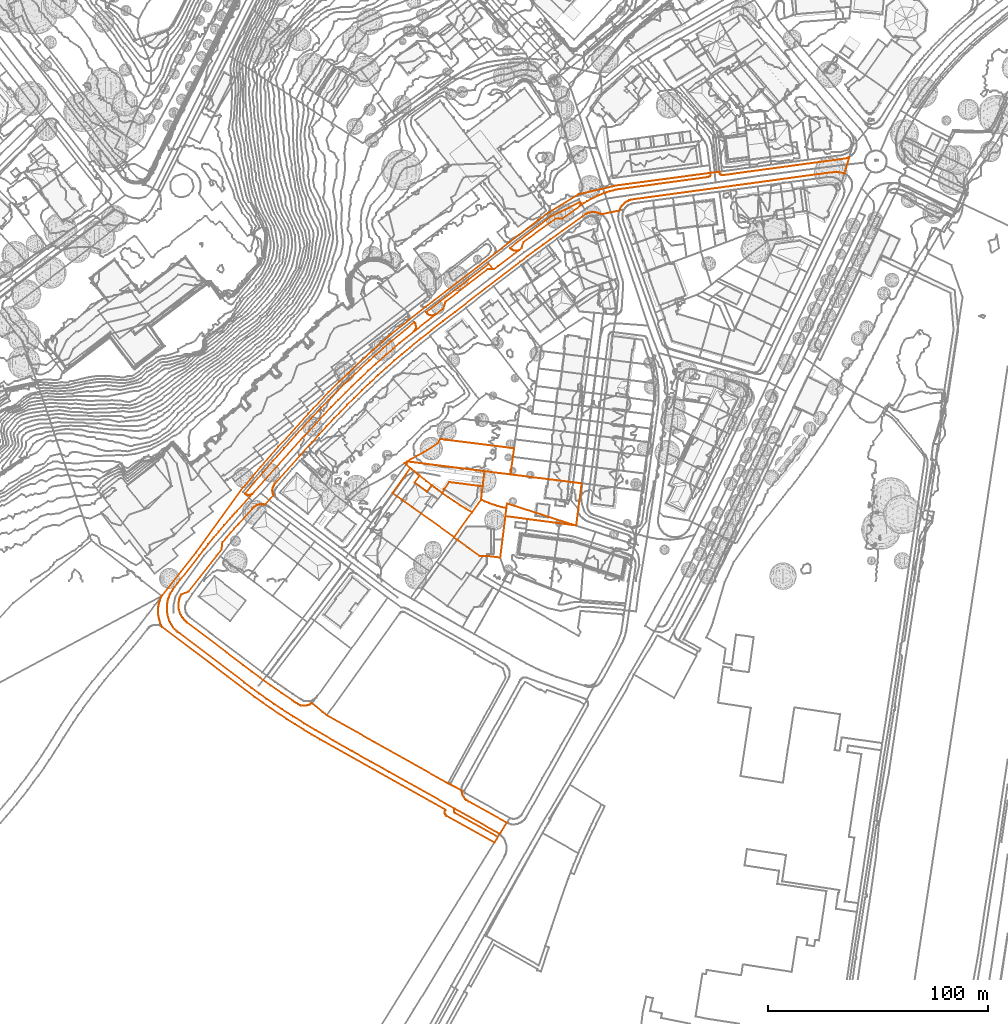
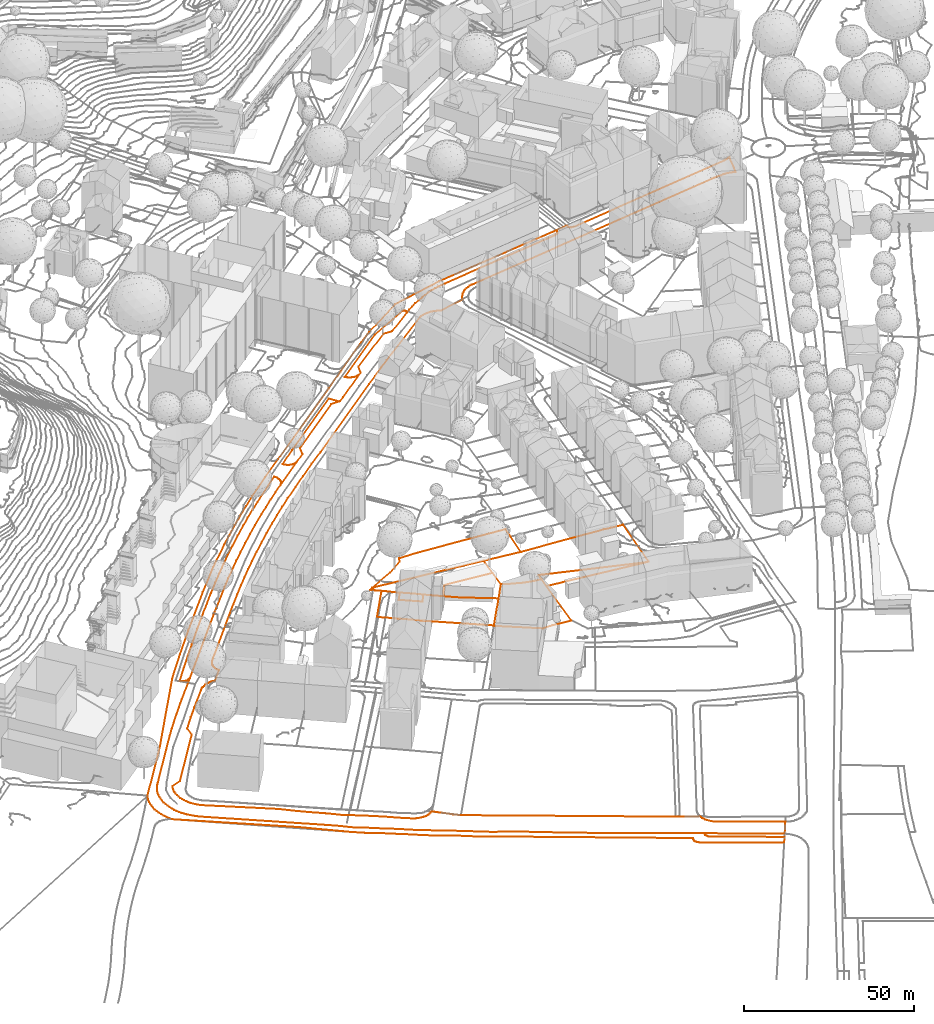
# Not in any storey, part 125 of 477: 6 geographic elements, 3 civil elements.
"""IFC4 model written with IfcOpenShell, lengths in metres."""

from ifc_helpers import new_model, entity, si_unit, frame, origin_with_axes, place, context, subcontext, project, spatial, element, save


model = new_model("IFC4")

# Units and contexts
model_context = context("Model", 3, precision=1e-05, world=origin_with_axes())
body_context = subcontext(model_context, "Body", "Model", "MODEL_VIEW")
ifc_project = project(units=[si_unit("AREAUNIT", "SQUARE_METRE"), si_unit("LENGTHUNIT", "METRE")], contexts=[model_context])

# Sites
site_1_placement = place(None, origin_with_axes())
site_1 = spatial("IfcSite", under=ifc_project, at=site_1_placement, Name="Topoexport Site")
site_2_placement = place(site_1_placement, origin_with_axes())
site_2 = spatial("IfcSite", under=site_1, at=site_2_placement, Name="TPX_ROADS_OUTLINES")

# Civil elements
civil_element_1_placement = place(site_2_placement, frame((258.6207320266, -15.0252839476, 503.8566566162), z_axis=(0.0, 0.0, 1.0), x_axis=(1.0, 0.0, 0.0)))
element("IfcCivilElement", 1, at=civil_element_1_placement, inside=site_2, Name="Roads Outline 103", ObjectType="ROAD", context=body_context, shape_type="GeometricCurveSet", body=[
    entity("IfcGeometricCurveSet", [entity("IfcIndexedPolyCurve", entity("IfcCartesianPointList3D", [[1.611, 7.0649999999, 0.0298461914], [17.1669999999, 26.7960000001, -0.1664721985], [38.4780000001, 56.2720000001, -0.3232977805], [46.469, 65.6499999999, -0.3978756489], [54.6269999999, 74.926, -0.5072653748], [68.2480000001, 89.9620000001, -0.6473626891], [77.3870000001, 99.74, -0.7626127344], [82.2609999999, 104.4909999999, -0.8225917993], [86.0449999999, 108.186, -0.8359621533], [89.8790000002, 111.828, -0.9376377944], [93.7650000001, 115.4170000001, -0.9897374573], [97.7000000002, 118.95, -1.0457364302], [101.6809999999, 122.426, -1.0917887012], [105.71, 125.8470000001, -1.1440215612], [109.787, 129.2120000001, -1.2268797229], [113.909, 132.52, -1.1977058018], [121.807, 138.6799999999, -1.3148771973], [152.7910000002, 162.585, -1.2873144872], [160.0279999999, 168.1699999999, -1.1047125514], [172.628, 177.8910000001, -0.9646272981], [177.2290000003, 181.1840000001, -0.9536199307], [191.0330000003, 189.6470000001, -0.8587447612], [208.1800000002, 193.6170000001, -1.0532250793], [224.858, 195.861, -1.1563147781], [250.23, 199.277, -1.3678007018], [251.085, 199.392, -1.3553995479], [251.1230000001, 199.1200000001, -1.3535357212], [251.1189999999, 198.8460000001, -1.3535559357], [251.0729999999, 198.575, -1.3551996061], [250.9590000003, 198.2520000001, -1.3566142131], [250.7850000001, 197.956, -1.3559932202], [250.5580000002, 197.699, -1.3516307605], [250.2710000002, 197.591, -1.3486239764], [249.977, 197.503, -1.3475760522], [249.7080000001, 197.4399999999, -1.3480654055], [249.4350000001, 197.3940000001, -1.3512664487], [209.1910000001, 191.9380000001, -1.1516545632], [207.9020000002, 191.679, -1.1146645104], [206.6210000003, 191.379, -1.0530327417], [205.3510000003, 191.04, -1.0110439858], [203.8969999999, 190.5970000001, -0.9752242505], [202.4610000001, 190.102, -0.9531931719], [201.0440000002, 189.5549999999, -1.0156338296], [199.6469999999, 188.956, -1.0330962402], [198.0320000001, 188.1980000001, -1.074926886], [196.4500000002, 187.3740000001, -1.055605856], [194.9040000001, 186.4839999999, -1.0990647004], [193.3960000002, 185.53, -1.159563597], [191.9300000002, 184.514, -1.1621339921], [192.074, 184.6780000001, -1.1609508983], [192.165, 184.8770000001, -1.1516755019], [192.1970000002, 185.0930000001, -1.1421356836], [192.1660000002, 185.3090000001, -1.1314248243], [192.0759999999, 185.5079999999, -1.117863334], [191.9300000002, 185.676, -1.100429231], [191.7420000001, 185.794, -1.0848717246], [191.5279999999, 185.8540000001, -1.0730279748], [191.3059999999, 185.8489999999, -1.0681995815], [191.094, 185.781, -1.0644594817], [178.3429999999, 179.4920000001, -1.0675894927], [159.8280000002, 165.291, -1.2504426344], [160.1669999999, 164.98, -1.2712112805], [160.5380000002, 164.71, -1.2896322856], [160.9380000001, 164.483, -1.3091541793], [161.361, 164.304, -1.3317790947], [161.8020000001, 164.173, -1.3564187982], [162.358, 164.081, -1.381497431], [162.9220000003, 164.068, -1.3990799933], [163.4820000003, 164.1329999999, -1.4092275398], [164.0270000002, 164.2760000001, -1.4320736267], [154.5010000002, 157.0209999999, -1.5772423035], [152.727, 155.682, -1.5841325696], [152.3450000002, 155.6640000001, -1.5773495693], [150.273, 158.118, -1.3086188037], [127.8689999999, 140.852, -1.4144565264], [121.8670000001, 136.0260000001, -1.435041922], [122.1580000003, 135.6400000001, -1.4512081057], [122.5060000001, 135.304, -1.4814651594], [122.9020000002, 135.0279999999, -1.4995433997], [123.338, 134.818, -1.5113944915], [123.801, 134.6799999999, -1.5290622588], [124.2290000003, 134.6200000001, -1.5432239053], [124.6600000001, 134.6200000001, -1.5611359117], [125.088, 134.682, -1.5998295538], [125.5019999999, 134.8030000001, -1.6326389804], [125.895, 134.9820000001, -1.626676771], [126.2590000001, 135.2150000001, -1.6283719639], [116.034, 127.1529999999, -1.4637402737], [116.1540000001, 127.25, -1.4679252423], [116.4960000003, 127.5930000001, -1.4860116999], [116.7779999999, 127.9880000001, -1.4775026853], [116.9920000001, 128.422, -1.4673896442], [117.1340000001, 128.8859999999, -1.4596747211], [117.199, 129.3659999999, -1.4431881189], [117.1869999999, 129.844, -1.4242604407], [117.1000000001, 130.314, -1.4067578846], [116.9390000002, 130.764, -1.3892388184], [116.7080000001, 131.183, -1.3700134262], [116.4130000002, 131.5600000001, -1.3480214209], [105.5929999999, 122.6100000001, -1.2604826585], [102.3080000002, 119.78, -1.1140165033], [99.0530000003, 116.9170000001, -1.0922674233], [95.8280000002, 114.0190000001, -1.0838658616], [91.9250000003, 110.4280000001, -1.0656046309], [88.068, 106.787, -0.9873016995], [84.2579999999, 103.0970000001, -0.9246332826], [80.8250000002, 99.655, -0.9072780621], [77.4240000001, 96.182, -0.8715245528], [74.0559999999, 92.6769999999, -0.8256320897], [70.25, 88.6370000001, -0.7667067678], [66.4890000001, 84.5549999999, -0.7568500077], [62.7719999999, 80.433, -0.6692784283], [57.358, 74.3970000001, -0.5822079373], [51.9939999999, 68.318, -0.5523515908], [47.7860000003, 63.477, -0.4973750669], [43.6090000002, 58.6089999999, -0.4328481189], [39.4640000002, 53.713, -0.3825559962], [39.7490000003, 53.469, -0.4004723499], [40.0670000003, 53.27, -0.4130406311], [40.412, 53.1229999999, -0.4200321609], [40.7760000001, 53.03, -0.4312874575], [41.1490000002, 52.993, -0.4487613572], [41.5380000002, 53.017, -0.4685823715], [41.9190000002, 53.102, -0.4797296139], [42.2820000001, 53.247, -0.4904160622], [42.6159999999, 53.4469999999, -0.5006207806], [42.915, 53.6980000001, -0.5112209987], [35.193, 45.128, -0.4059544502], [33.9080000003, 43.6940000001, -0.3978402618], [32.6290000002, 42.2560000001, -0.3842710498], [30.0780000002, 39.375, -0.3584795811], [27.5660000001, 36.459, -0.3437054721], [25.1540000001, 33.5789999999, -0.3210536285], [22.7820000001, 30.666, -0.2879650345], [20.736, 28.112, -0.2667587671], [18.7140000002, 25.54, -0.2429346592], [7.426, 11.095, 0.0563121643], [6.8110000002, 10.294, 0.0775391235], [6.2510000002, 9.453, 0.0681148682], [5.75, 8.5760000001, 0.0383312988], [5.3089999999, 7.6670000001, 0.0301802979], [4.9309999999, 6.7309999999, 0.0352444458], [4.6170000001, 5.7709999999, 0.0394511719], [4.3650000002, 4.7749999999, 0.0422764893], [4.1830000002, 3.764, 0.044192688], [4.071, 2.743, 0.0453718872], [4.0290000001, 1.716, 0.0458140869], [4.0580000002, 0.6899999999, 0.0455087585], [4.1580000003, -0.3329999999, 0.0444559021], [4.3280000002, -1.3459999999, 0.0426660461], [4.568, -2.345, 0.0401076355], [4.804, -3.1780000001, 0.0369458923], [5.0950000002, -3.993, 0.0330473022], [5.4410000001, -4.787, 0.0284118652], [5.8390000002, -5.5549999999, 0.0436221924], [6.3470000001, -6.382, 0.0738218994], [6.9169999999, -7.169, 0.0738804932], [7.5449999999, -7.909, 0.052204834], [8.2280000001, -8.6000000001, 0.0204808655], [8.9610000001, -9.237, -0.0226481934], [9.7409999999, -9.8159999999, -0.0688883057], [39.1869999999, -32.1710000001, 0.2172972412], [42.5300000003, -34.7009999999, 0.2037538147], [45.9080000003, -37.1850000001, -0.0214473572], [49.3200000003, -39.6229999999, 0.1572172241], [52.7650000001, -42.013, 0.1478450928], [56.2430000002, -44.355, 0.1938013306], [61.3140000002, -47.581, -0.0323348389], [66.4190000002, -50.753, -0.0470189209], [71.557, -53.871, -0.0976539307], [79.8140000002, -58.675, -0.4374115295], [88.108, -63.4169999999, -0.4054544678], [96.5460000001, -68.1569999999, -0.7357007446], [105.0189999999, -72.834, -1.0302424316], [134.7680000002, -89.537, -1.4603580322], [134.6290000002, -89.777, -1.4586273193], [134.5320000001, -90.0360000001, -1.4574195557], [134.4810000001, -90.3089999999, -1.4567845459], [134.4760000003, -90.5859999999, -1.45672229], [134.5350000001, -90.926, -1.4574569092], [134.665, -91.246, -1.4590755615], [134.8599999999, -91.5319999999, -1.46150354], [154.3620000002, -102.405, -1.8314281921], [152.7779999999, -104.9579999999, -1.794117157], [131.0810000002, -92.848, -1.4144810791], [130.7689999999, -92.601, -1.4105963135], [130.5120000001, -92.297, -1.4073977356], [130.3200000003, -91.9480000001, -1.40501297], [130.2009999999, -91.568, -1.4035349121], [130.165, -91.173, -1.4030877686], [130.2080000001, -90.7779999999, -1.4036218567], [130.3280000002, -90.3999999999, -1.4051123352], [130.5210000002, -90.0530000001, -1.4075095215], [73.648, -58.048, -0.2546949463], [69.8100000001, -55.808, -0.0082165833], [66.0, -53.5190000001, -0.0212406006], [62.2200000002, -51.182, -0.0510916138], [58.4700000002, -48.798, 0.1252438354], [54.7579999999, -46.358, 0.1631678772], [51.0780000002, -43.871, 0.1983815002], [47.429, -41.3370000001, 0.0411968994], [43.8119999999, -38.7579999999, 0.067796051], [31.648, -29.5419999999, 0.4580260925], [1.8900000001, -6.996, 0.0247886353], [1.4139999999, -6.0649999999, 0.0256100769], [1.003, -5.1040000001, 0.010621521], [0.6610000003, -4.1159999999, -0.001850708], [0.389, -3.1070000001, -0.0039412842], [0.1869999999, -2.081, -0.0018946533], [0.057, -1.044, -0.0005775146], [0.0, 0.0, 0.0], [0.0160000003, 1.0449999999, -0.0001621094], [0.1040000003, 2.0870000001, -0.0010537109], [0.2650000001, 3.1200000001, -0.0026849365], [0.497, 4.139, -0.0050355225], [0.8000000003, 5.139, 0.0032184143], [1.1720000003, 6.1159999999, 0.0167846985], [1.611, 7.0649999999, 0.0298461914]]))]),
])
civil_element_2_placement = place(site_2_placement, frame((371.2307320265, 51.8597160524, 502.4108303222), z_axis=(0.0, 0.0, 1.0), x_axis=(1.0, 0.0, 0.0)))
element("IfcCivilElement", 2, at=civil_element_2_placement, inside=site_2, Name="Roads Outline 120", ObjectType="ROAD", context=body_context, shape_type="GeometricCurveSet", body=[
    entity("IfcGeometricCurveSet", [entity("IfcIndexedPolyCurve", entity("IfcCartesianPointList3D", [[0.0, 0.0, 0.0], [0.8710000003, 1.3130000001, -0.1217882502], [0.9700000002, 1.301, -0.1211399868], [1.3140000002, 1.2579999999, -0.1175275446], [4.7250000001, 0.8289999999, -0.1139191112], [35.6830000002, -3.071, -0.1133765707], [34.8500000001, -9.9539999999, 0.003727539], [32.8370000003, -9.7009999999, 0.0573204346], [19.5490000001, -8.0319999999, -0.1189635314], [17.4110000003, -11.2509999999, -0.1468187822], [16.5780000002, -13.1170000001, -0.046251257], [16.5130000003, -13.071, -0.0419122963], [14.0820000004, -11.263, 0.0039351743], [11.6690000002, -9.4310000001, 0.0304222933], [9.6050000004, -12.3259999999, 0.0284235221], [3.9100000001, -8.246, 0.1374620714], [6.1600000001, -5.1040000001, 0.0393766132], [5.037, -4.196, 0.0210365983], [3.9180000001, -3.2830000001, 0.031877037], [3.8680000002, -3.2420000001, 0.0338036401], [3.8420000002, -3.22, 0.0348714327], [2.8930000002, -2.436, 0.0925608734], [1.9450000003, -1.6510000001, 0.0763706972], [0.0, 0.0, 0.0]]))]),
])
civil_element_3_placement = place(site_2_placement, frame((262.6497320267, -13.3092839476, 503.9024707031), z_axis=(0.0, 0.0, 1.0), x_axis=(1.0, 0.0, 0.0)))
element("IfcCivilElement", 3, at=civil_element_3_placement, inside=site_2, Name="Roads Outline 130", ObjectType="ROAD", context=body_context, shape_type="GeometricCurveSet", body=[
    entity("IfcGeometricCurveSet", [entity("IfcIndexedPolyCurve", entity("IfcCartesianPointList3D", [[0.5389999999, -4.061, -0.0057064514], [0.2990000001, -3.0619999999, -0.0031480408], [0.1290000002, -2.0489999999, -0.0013581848], [0.0290000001, -1.0260000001, -0.0003053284], [0.0, 0.0, 0.0], [0.0419999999, 1.027, -0.0004421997], [0.1540000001, 2.048, -0.0016213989], [0.3360000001, 3.0589999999, -0.0035375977], [0.588, 4.0549999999, -0.006362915], [0.9019999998, 5.0149999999, -0.0105696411], [1.2799999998, 5.9510000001, -0.0156337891], [1.7209999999, 6.8600000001, -0.0074827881], [2.2220000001, 7.737, 0.0223007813], [2.7820000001, 8.578, 0.0317250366], [3.3969999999, 9.379, 0.0104980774], [14.6850000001, 23.824, -0.2887487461], [16.7069999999, 26.3959999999, -0.312572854], [18.753, 28.95, -0.3337791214], [21.125, 31.8629999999, -0.3668677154], [23.537, 34.743, -0.389519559], [26.0490000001, 37.659, -0.404293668], [28.6000000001, 40.54, -0.4300851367], [29.8790000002, 41.9780000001, -0.4436543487], [31.1639999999, 43.412, -0.4517685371], [38.8859999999, 51.9820000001, -0.5570350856], [62.2439999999, 77.95, -0.9462583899], [71.3479999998, 87.804, -1.047282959], [74.5600000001, 91.182, -1.0667415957], [77.8110000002, 94.5220000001, -1.1188040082], [81.1000000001, 97.8260000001, -1.1458437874], [84.4270000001, 101.091, -1.1758217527], [87.9249999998, 104.4450000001, -1.2241489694], [91.463, 107.7579999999, -1.2389045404], [95.04, 111.0279999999, -1.2677067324], [99.5610000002, 115.023, -1.3373171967], [102.648, 117.71, -1.4421208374], [105.77, 120.3559999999, -1.4389836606], [108.8709999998, 122.916, -1.4814820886], [112.0049999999, 125.4369999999, -1.5095543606], [122.23, 133.4990000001, -1.6741860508], [125.645, 136.1599999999, -1.7210046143], [126.54, 139.1200000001, -1.6750229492], [145.6660000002, 153.892, -1.5919867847], [148.3160000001, 153.9480000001, -1.6231636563], [148.6979999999, 153.966, -1.6299466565], [150.4720000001, 155.3049999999, -1.6230563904], [159.9980000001, 162.5600000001, -1.4778877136], [161.1209999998, 163.4099999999, -1.4672502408], [162.0010000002, 166.3049999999, -1.4271675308], [176.5389999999, 176.8570000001, -1.1856304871], [179.5350000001, 176.8149999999, -1.2609590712], [187.8029999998, 182.727, -1.2084698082], [187.9010000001, 182.798, -1.207948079], [189.3670000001, 183.814, -1.205377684], [190.875, 184.7679999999, -1.1448787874], [192.4210000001, 185.6580000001, -1.1014199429], [194.003, 186.4820000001, -1.1207409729], [195.6179999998, 187.24, -1.0789103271], [197.0150000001, 187.8389999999, -1.0614479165], [198.432, 188.3859999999, -0.9990072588], [199.8679999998, 188.8810000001, -1.0210383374], [201.3220000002, 189.324, -1.0568580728], [202.5920000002, 189.6629999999, -1.0988468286], [203.8730000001, 189.963, -1.1604785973], [205.162, 190.2220000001, -1.1974686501], [245.406, 195.6780000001, -1.3970805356], [245.679, 195.7239999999, -1.3938794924], [245.9479999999, 195.787, -1.3933901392], [246.2420000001, 195.875, -1.3944380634], [246.5290000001, 195.983, -1.3974448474], [246.7560000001, 196.24, -1.4018073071], [246.9300000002, 196.5360000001, -1.4024283], [247.0439999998, 196.8589999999, -1.401013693], [247.0899999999, 197.1300000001, -1.3993700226], [247.094, 197.4040000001, -1.3993498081], [247.0559999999, 197.676, -1.4012136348], [249.9249999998, 198.0619999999, -1.3964670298], [251.04, 198.2120000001, -1.4066033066], [251.0789999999, 197.8629999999, -1.4155004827], [251.105, 197.6089999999, -1.4106553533], [251.1809999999, 197.365, -1.4068772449], [251.304, 197.1410000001, -1.4055264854], [251.4700000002, 196.9469999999, -1.4057552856], [251.7110000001, 196.7649999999, -1.3981821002], [251.9890000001, 196.6459999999, -1.3943791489], [252.287, 196.5959999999, -1.3949076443], [252.588, 196.6170000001, -1.3989694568], [307.77, 204.1310000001, -1.5309644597], [308.358, 204.2379999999, -1.5325805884], [308.9339999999, 204.399, -1.5214086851], [309.4920000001, 204.612, -1.5099840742], [310.0290000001, 204.875, -1.5042742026], [310.02, 204.8459999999, -1.5038891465], [308.4300000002, 199.466, -1.4654980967], [307.7850000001, 197.2849999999, -1.4686628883], [307.0890000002, 197.5290000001, -1.4753664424], [306.378, 197.723, -1.4743528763], [305.605, 197.8729999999, -1.4355913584], [304.8229999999, 197.9620000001, -1.43273974], [304.0359999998, 197.9909999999, -1.4225772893], [302.9619999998, 197.9369999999, -1.411702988], [301.889, 197.8540000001, -1.4042682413], [300.9449999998, 197.754, -1.390009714], [300.0040000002, 197.632, -1.374994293], [212.2179999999, 185.7109999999, -1.1163374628], [211.4890000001, 185.601, -1.1201888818], [210.7740000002, 185.425, -1.1268597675], [210.0780000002, 185.1839999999, -1.1307669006], [209.4070000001, 184.879, -1.1339074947], [208.767, 184.514, -1.1492976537], [208.1639999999, 184.091, -1.1642729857], [207.602, 183.6140000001, -1.1762166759], [207.0860000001, 183.088, -1.2022929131], [206.622, 182.5160000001, -1.2117000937], [206.2119999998, 181.9040000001, -1.2202164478], [205.8599999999, 181.257, -1.2280841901], [205.5690000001, 180.5800000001, -1.2301342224], [197.3459999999, 178.8189999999, -1.2309603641], [197.2319999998, 178.8859999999, -1.23833654], [196.9049999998, 179.064, -1.2546378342], [196.5690000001, 179.2239999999, -1.2700916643], [195.8799999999, 179.49, -1.3008048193], [195.1680000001, 179.683, -1.2893156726], [194.4399999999, 179.801, -1.2727682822], [193.7030000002, 179.844, -1.2947818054], [192.9649999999, 179.811, -1.3172970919], [192.236, 179.7010000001, -1.2876391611], [191.5210000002, 179.517, -1.2058709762], [190.8289999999, 179.2609999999, -1.239208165], [190.1669999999, 178.9339999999, -1.2377140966], [174.2829999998, 167.5020000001, -1.3594583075], [170.9100000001, 165.051, -1.3985934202], [167.5460000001, 162.5859999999, -1.4843606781], [163.946, 159.9210000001, -1.5736200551], [160.3590000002, 157.2390000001, -1.6522851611], [130.8420000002, 134.5, -1.7581777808], [125.4679999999, 130.3670000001, -1.6538557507], [120.1299999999, 126.1880000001, -1.5851305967], [115.2439999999, 122.2949999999, -1.5386686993], [110.3909999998, 118.362, -1.4379433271], [106.8119999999, 115.3700000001, -1.434979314], [103.2710000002, 112.334, -1.358463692], [99.7680000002, 109.253, -1.3120700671], [95.9840000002, 105.8370000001, -1.2684722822], [92.247, 102.3700000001, -1.2416182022], [88.5580000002, 98.8530000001, -1.1760768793], [84.9819999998, 95.3670000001, -1.1499269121], [81.952, 92.331, -1.1150658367], [78.9500000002, 89.2679999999, -1.0646633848], [75.9759999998, 86.1780000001, -1.0406971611], [72.5720000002, 82.5689999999, -0.9759327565], [69.2059999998, 78.9240000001, -0.9529725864], [65.878, 75.2439999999, -0.8854043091], [49.8810000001, 57.476, -0.6916893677], [49.4330000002, 56.95, -0.7016132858], [49.0150000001, 56.4010000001, -0.7040164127], [48.6260000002, 55.8300000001, -0.6960271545], [48.3689999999, 55.3770000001, -0.6966297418], [48.162, 54.898, -0.6920591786], [48.0090000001, 54.3999999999, -0.6790054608], [47.9109999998, 53.888, -0.6686703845], [47.8670000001, 53.2890000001, -0.6710667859], [47.8999999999, 52.6899999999, -0.6684532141], [48.0070000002, 52.0989999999, -0.661716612], [48.1499999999, 51.6669999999, -0.6625929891], [48.3560000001, 51.2609999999, -0.6663236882], [44.5070000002, 46.9510000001, -0.4791822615], [44.1630000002, 47.03, -0.471758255], [43.8139999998, 47.088, -0.461321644], [43.2769999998, 47.132, -0.4736802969], [42.7379999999, 47.1240000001, -0.5140459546], [42.2030000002, 47.0649999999, -0.5506632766], [41.6749999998, 46.9550000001, -0.5837705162], [41.0580000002, 46.7320000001, -0.5934661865], [40.4670000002, 46.449, -0.590524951], [39.9070000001, 46.108, -0.549899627], [39.4410000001, 45.76, -0.5001099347], [39.0070000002, 45.3729999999, -0.4728199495], [38.6090000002, 44.9480000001, -0.4723971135], [32.2650000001, 37.919, -0.3886627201], [30.5890000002, 36.0560000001, -0.3865621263], [28.932, 34.175, -0.3755623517], [27.057, 31.9990000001, -0.3719368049], [25.2089999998, 29.801, -0.3797983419], [24.7680000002, 26.3870000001, -0.3642270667], [22.6290000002, 23.7080000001, -0.3316242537], [9.767, 7.385, -0.2027637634], [6.5219999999, 6.135, -0.1378643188], [6.1519999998, 5.3899999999, -0.1272841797], [5.844, 4.6170000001, -0.1184769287], [5.6009999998, 3.821, -0.1115283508], [5.4240000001, 3.007, -0.1022902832], [5.3149999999, 2.183, -0.0947958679], [5.273, 1.351, -0.0919081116], [5.301, 0.52, -0.0938332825], [5.3960000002, -0.307, -0.1003651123], [5.5550000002, -1.1000000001, -0.1102129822], [5.7769999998, -1.8770000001, -0.1165610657], [6.0610000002, -2.6340000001, -0.1246820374], [6.4040000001, -3.3659999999, -0.1344901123], [6.8050000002, -4.068, -0.1387966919], [7.2609999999, -4.736, -0.1400491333], [7.7689999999, -5.365, -0.1446363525], [8.2059999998, -5.834, -0.1516245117], [8.673, -6.274, -0.161880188], [9.1669999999, -6.682, -0.1792775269], [27.0019999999, -20.2, 0.4338944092], [30.7650000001, -23.1359999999, 0.2691181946], [34.5559999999, -26.0360000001, 0.1574472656], [38.3760000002, -28.8999999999, 0.1595686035], [42.2220000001, -31.726, -0.0705377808], [47.1069999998, -35.233, 0.1522293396], [52.0359999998, -38.679, 0.1451571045], [57.0060000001, -42.064, -0.076173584], [57.9389999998, -42.6799999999, -0.0904303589], [58.8859999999, -43.2749999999, -0.1092797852], [59.574, -43.6880000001, -0.113998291], [60.2689999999, -44.0900000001, -0.084644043], [60.8459999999, -44.2849999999, -0.0629230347], [61.4410000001, -44.4140000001, -0.0427495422], [62.0460000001, -44.476, -0.0716689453], [62.6549999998, -44.4709999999, -0.1064934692], [63.2590000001, -44.398, -0.1310825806], [63.852, -44.2579999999, -0.1253037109], [64.3730000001, -44.075, -0.0984014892], [64.8730000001, -43.8400000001, -0.0760159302], [65.3470000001, -43.5560000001, -0.0562562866], [65.79, -43.2250000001, -0.0542199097], [70.727, -47.2690000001, -0.3901565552], [72.6000000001, -48.804, -0.419498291], [94.3870000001, -61.054, -0.8251239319], [127.5630000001, -79.7039999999, -1.4666577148], [127.969, -79.915, -1.4717128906], [133.898, -83.0020000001, -1.5454748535], [133.9479999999, -83.4979999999, -1.5460974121], [134.0380000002, -83.9890000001, -1.5472180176], [134.1699999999, -84.47, -1.5488615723], [134.409, -85.0959999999, -1.5518374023], [134.7170000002, -85.6910000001, -1.5556723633], [135.0899999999, -86.2479999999, -1.5603166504], [135.5219999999, -86.7590000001, -1.5656955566], [136.0099999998, -87.219, -1.571757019], [136.5449999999, -87.621, -1.5784025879], [137.1230000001, -87.9609999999, -1.5855993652], [154.372, -97.6070000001, -1.7628184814], [151.2000000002, -102.7220000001, -1.8722419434], [150.9610000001, -102.577, -1.8752542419], [150.7140000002, -102.4450000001, -1.8783673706], [130.7390000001, -91.253, -1.5061721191], [100.9899999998, -74.55, -1.0760565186], [92.517, -69.8729999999, -0.7815148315], [84.0789999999, -65.1329999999, -0.4512685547], [75.7850000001, -60.3910000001, -0.4832256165], [67.5279999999, -55.5870000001, -0.1434680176], [62.3900000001, -52.469, -0.0928330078], [57.2850000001, -49.297, -0.0781489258], [52.2140000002, -46.071, 0.1479872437], [48.736, -43.7290000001, 0.1020310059], [45.2910000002, -41.3389999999, 0.1114031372], [41.8790000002, -38.9010000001, -0.0672614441], [38.5010000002, -36.4169999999, 0.1579397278], [35.1579999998, -33.8870000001, 0.1714831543], [5.7119999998, -11.5319999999, -0.1147023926], [4.932, -10.953, -0.0684622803], [4.199, -10.3160000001, -0.0253332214], [3.5159999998, -9.625, 0.0063907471], [2.8879999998, -8.885, 0.0280664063], [2.318, -8.098, 0.0280078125], [1.8100000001, -7.2709999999, -0.0021918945], [1.412, -6.503, -0.0174022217], [1.0660000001, -5.709, -0.0127667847], [0.7749999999, -4.8940000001, -0.0088681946], [0.5389999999, -4.061, -0.0057064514]]))]),
])

# Site
site_3_placement = place(site_1_placement, origin_with_axes())
site_3 = spatial("IfcSite", under=site_1, at=site_3_placement, Name="TPX_CADASTRES")

# Geographic elements
geographic_element_1_placement = place(site_3_placement, frame((392.9997320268, 18.6467160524, 502.1115693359), z_axis=(0.0, 0.0, 1.0), x_axis=(1.0, 0.0, 0.0)))
element("IfcGeographicElement", 4, at=geographic_element_1_placement, inside=site_3, Name="Cadastre 169", PredefinedType="NOTDEFINED", context=body_context, shape_type="GeometricCurveSet", body=[
    entity("IfcGeometricCurveSet", [entity("IfcIndexedPolyCurve", entity("IfcCartesianPointList3D", [[0.0, 0.0, 0.0], [0.1319999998, 0.1810000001, 0.0021309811], [8.213, 11.4620000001, 0.0054230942], [12.3530000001, 17.2320000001, 0.1827259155], [14.2050000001, 16.3940000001, 0.0818501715], [16.088, 15.628, 0.1114618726], [17.9989999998, 14.9350000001, 0.0823230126], [19.9350000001, 14.3160000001, 0.1016573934], [21.8929999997, 13.7709999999, 0.1663202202], [23.8709999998, 13.3019999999, 0.320588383], [23.4210000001, 9.702, 0.204112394], [21.0800000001, -9.108, 0.0944309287], [15.1009999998, -8.3840000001, 0.0595104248], [11.7409999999, -8.398, 0.0977379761], [1.6189999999, -1.1580000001, 0.0153770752], [0.0, 0.0, 0.0]]))]),
])
geographic_element_2_placement = place(site_3_placement, frame((416.4207320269, 28.3487160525, 502.3156817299), z_axis=(0.0, 0.0, 1.0), x_axis=(1.0, 0.0, 0.0)))
element("IfcGeographicElement", 5, at=geographic_element_2_placement, inside=site_3, Name="Cadastre 170", PredefinedType="NOTDEFINED", context=body_context, shape_type="GeometricCurveSet", body=[
    entity("IfcGeometricCurveSet", [entity("IfcIndexedPolyCurve", entity("IfcCartesianPointList3D", [[0.0, 0.0, 0.0], [0.4499999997, 3.5999999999, 0.116475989], [0.7109999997, 5.72, 0.2269686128], [31.497, -4.1200000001, 0.0217200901], [24.6679999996, -3.23, -0.0088593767], [0.0, 0.0, 0.0]]))]),
])
geographic_element_3_placement = place(site_3_placement, frame((405.3527320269, 35.8787160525, 502.2942952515), z_axis=(0.0, 0.0, 1.0), x_axis=(1.0, 0.0, 0.0)))
element("IfcGeographicElement", 6, at=geographic_element_3_placement, inside=site_3, Name="Cadastre 171", PredefinedType="NOTDEFINED", context=body_context, shape_type="GeometricCurveSet", body=[
    entity("IfcGeometricCurveSet", [entity("IfcIndexedPolyCurve", entity("IfcCartesianPointList3D", [[0.0, 0.0, 0.0], [1.5609999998, 12.9099999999, 0.0031585], [13.3899999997, 11.4199999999, -0.0297459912], [30.6839999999, 9.263, 0.5772822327], [39.7429999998, 8.1329999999, 0.8357436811], [41.926, 7.8599999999, 0.7536928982], [45.6969999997, 7.3899999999, 0.8008294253], [43.2549999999, -11.8700000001, 0.1057760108], [42.5649999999, -11.6500000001, 0.0431065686], [11.7789999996, -1.8100000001, 0.2483550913], [11.5179999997, -3.9300000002, 0.1378624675], [9.5399999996, -3.4610000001, -0.0164056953], [7.5819999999, -2.916, -0.0810685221], [5.6459999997, -2.297, -0.100402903], [3.7349999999, -1.6040000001, -0.071264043], [1.852, -0.838, -0.100875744], [0.0, 0.0, 0.0]]))]),
])
geographic_element_4_placement = place(site_3_placement, frame((365.0657320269, 38.8877160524, 502.8173265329), z_axis=(0.0, 0.0, 1.0), x_axis=(1.0, 0.0, 0.0)))
element("IfcGeographicElement", 7, at=geographic_element_4_placement, inside=site_3, Name="Cadastre 172", PredefinedType="NOTDEFINED", context=body_context, shape_type="GeometricCurveSet", body=[
    entity("IfcGeometricCurveSet", [entity("IfcIndexedPolyCurve", entity("IfcCartesianPointList3D", [[0.0, 0.0, 0.0], [8.1099999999, 11.321, -0.3301255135], [11.6869999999, 8.3840000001, -0.3782512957], [15.3069999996, 5.5010000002, -0.2755920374], [18.9719999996, 2.6730000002, -0.4055232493], [22.6779999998, -0.0989999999, -0.4484085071], [25.2959999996, -1.95, -0.5794648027], [27.9529999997, -3.7439999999, -0.58346291], [30.6489999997, -5.48, -0.5477310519], [33.3799999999, -7.159, -0.4852094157], [36.1469999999, -8.7789999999, -0.7003341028], [28.0659999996, -20.0599999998, -0.7036262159], [13.0609999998, -9.3429999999, -0.4644923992], [4.4409999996, -3.176, -0.1046389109], [0.0, 0.0, 0.0]]))]),
])
geographic_element_5_placement = place(site_3_placement, frame((370.5367320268, 52.4487160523, 502.343602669), z_axis=(0.0, 0.0, 1.0), x_axis=(1.0, 0.0, 0.0)))
element("IfcGeographicElement", 8, at=geographic_element_5_placement, inside=site_3, Name="Cadastre 173", PredefinedType="NOTDEFINED", context=body_context, shape_type="GeometricCurveSet", body=[
    entity("IfcGeometricCurveSet", [entity("IfcIndexedPolyCurve", entity("IfcCartesianPointList3D", [[0.0, 0.0, 0.0], [1.1200000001, 0.78, -0.0567659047], [5.4189999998, 0.24, -0.0466914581], [36.3769999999, -3.6599999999, -0.0461489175], [34.8160000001, -16.5699999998, -0.0493074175], [30.676, -22.3399999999, -0.2266102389], [27.909, -20.72, -0.0114855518], [25.1779999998, -19.041, -0.074007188], [22.4819999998, -17.3049999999, -0.109739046], [19.8249999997, -15.5109999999, -0.1057409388], [17.2069999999, -13.6599999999, 0.0253153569], [13.5009999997, -10.8879999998, 0.0682006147], [9.8359999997, -8.0599999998, 0.1981318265], [6.216, -5.1769999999, 0.0954725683], [2.639, -2.24, 0.1435983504], [0.0, 0.0, 0.0]]))]),
])
geographic_element_6_placement = place(site_3_placement, frame((371.656732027, 53.2287160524, 502.2868367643), z_axis=(0.0, 0.0, 1.0), x_axis=(1.0, 0.0, 0.0)))
element("IfcGeographicElement", 9, at=geographic_element_6_placement, inside=site_3, Name="Cadastre 177", PredefinedType="NOTDEFINED", context=body_context, shape_type="GeometricCurveSet", body=[
    entity("IfcGeometricCurveSet", [entity("IfcIndexedPolyCurve", entity("IfcCartesianPointList3D", [[0.0, 0.0, 0.0], [9.1299999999, 5.0900000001, -0.7620405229], [14.3289999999, 8.5900000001, -0.8443470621], [15.0699999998, 10.2, -0.9061572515], [20.5889999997, 9.51, -0.4741197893], [48.7259999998, 5.98, 0.3206853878], [48.1859999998, 2.03, 0.2102183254], [47.0859999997, -5.9299999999, -0.0222875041], [35.2569999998, -4.4399999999, 0.0106169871], [4.2989999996, -0.54, 0.0100744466], [0.0, 0.0, 0.0]]))]),
])

save(model, "model.ifc")
